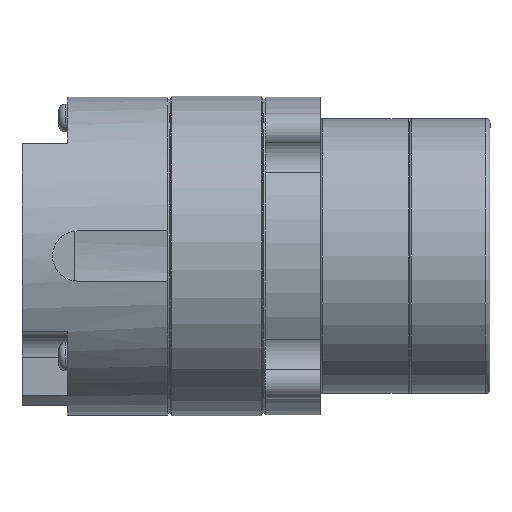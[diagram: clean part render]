
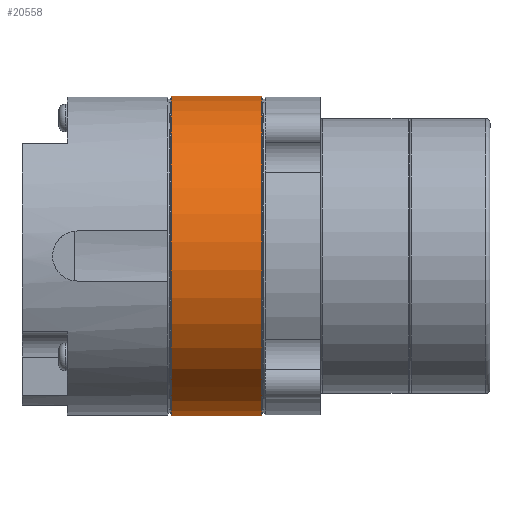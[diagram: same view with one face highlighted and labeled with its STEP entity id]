
A CAD part, front view. The second image highlights one B-rep face of the part: STEP entity #20558.
In plain terms, the highlighted cylindrical face has radius 32 mm (diameter 64 mm), a full revolution.
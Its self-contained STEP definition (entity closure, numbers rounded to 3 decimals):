
#552 = AXIS2_PLACEMENT_3D ( 'NONE', #9718, #17122, #24818 ) ;
#2868 = EDGE_LOOP ( 'NONE', ( #17574 ) ) ;
#3731 = DIRECTION ( 'NONE',  ( 0., 0., 1. ) ) ;
#4585 = CARTESIAN_POINT ( 'NONE',  ( 0., 18.12, 0. ) ) ;
#5074 = DIRECTION ( 'NONE',  ( 0., 0., 1. ) ) ;
#6110 = CIRCLE ( 'NONE', #24861, 32. ) ;
#7503 = CIRCLE ( 'NONE', #25203, 32. ) ;
#9265 = EDGE_CURVE ( 'NONE', #33257, #33257, #6110, .T. ) ;
#9718 = CARTESIAN_POINT ( 'NONE',  ( 0., 18.12, 0. ) ) ;
#11903 = CYLINDRICAL_SURFACE ( 'NONE', #552, 32. ) ;
#12044 = VERTEX_POINT ( 'NONE', #33061 ) ;
#12251 = FACE_OUTER_BOUND ( 'NONE', #20968, .T. ) ;
#17122 = DIRECTION ( 'NONE',  ( 0., -1., 0. ) ) ;
#17574 = ORIENTED_EDGE ( 'NONE', *, *, #9265, .F. ) ;
#20558 = ADVANCED_FACE ( 'NONE', ( #30040, #12251 ), #11903, .T. ) ;
#20968 = EDGE_LOOP ( 'NONE', ( #33226 ) ) ;
#21634 = EDGE_CURVE ( 'NONE', #12044, #12044, #7503, .T. ) ;
#24818 = DIRECTION ( 'NONE',  ( 0., 0., -1. ) ) ;
#24861 = AXIS2_PLACEMENT_3D ( 'NONE', #4585, #27888, #5074 ) ;
#25203 = AXIS2_PLACEMENT_3D ( 'NONE', #26730, #26394, #3731 ) ;
#26394 = DIRECTION ( 'NONE',  ( 0., 1., 0. ) ) ;
#26730 = CARTESIAN_POINT ( 'NONE',  ( 0., 0., 0. ) ) ;
#27888 = DIRECTION ( 'NONE',  ( 0., 1., 0. ) ) ;
#28006 = CARTESIAN_POINT ( 'NONE',  ( 0., 18.12, 32. ) ) ;
#30040 = FACE_OUTER_BOUND ( 'NONE', #2868, .T. ) ;
#33061 = CARTESIAN_POINT ( 'NONE',  ( 0., 0., 32. ) ) ;
#33226 = ORIENTED_EDGE ( 'NONE', *, *, #21634, .T. ) ;
#33257 = VERTEX_POINT ( 'NONE', #28006 ) ;
